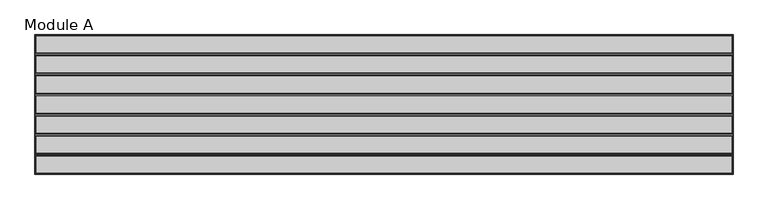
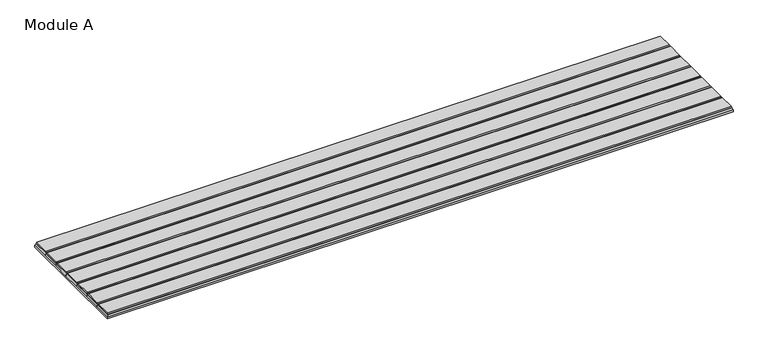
"""IFC4 building model written with IfcOpenShell, lengths in millimetres: proxy geometry, FilzFelt_Gap : Module A."""

from ifc_helpers import new_model, si_unit, origin, place, context, project, spatial, faceted_brep, source, transform, mapped, element, save


def module_a_b5c75f02(model_context):
    return source(origin(), model_context, "Body", "Brep", [
        faceted_brep([(-760.095, 110.7621429, 9.525), (760.095, 110.7621429, 9.525), (760.095, 150.495, 9.525), (-760.095, 150.495, 9.525), (760.095, -110.7621429, 9.525), (-760.095, -110.7621429, 9.525), (-760.095, -150.495, 9.525), (760.095, -150.495, 9.525), (-760.095, 67.2192857, 9.525), (760.095, 67.2192857, 9.525), (760.095, 106.9521429, 9.525), (-760.095, 106.9521429, 9.525), (-760.095, 23.6764286, 9.525), (760.095, 23.6764286, 9.525), (760.095, 63.4092857, 9.525), (-760.095, 63.4092857, 9.525), (-760.095, -19.8664286, 9.525), (760.095, -19.8664286, 9.525), (760.095, 19.8664286, 9.525), (-760.095, 19.8664286, 9.525), (-760.095, -63.4092857, 9.525), (760.095, -63.4092857, 9.525), (760.095, -23.6764286, 9.525), (-760.095, -23.6764286, 9.525), (-760.095, -106.9521429, 9.525), (760.095, -106.9521429, 9.525), (760.095, -67.2192857, 9.525), (-760.095, -67.2192857, 9.525), (762.0, 152.4, 0.0), (762.0, -152.4, 0.0), (-762.0, -152.4, 0.0), (-762.0, 152.4, 0.0), (-762.0, 152.4, 4.7625), (762.0, 152.4, 4.7625), (-762.0, -152.4, 4.7625), (-762.0, -108.8571429, 4.7625), (-762.0, -65.3142857, 4.7625), (-762.0, -21.7714286, 4.7625), (-762.0, 21.7714286, 4.7625), (-762.0, 65.3142857, 4.7625), (-762.0, 108.8571429, 4.7625), (762.0, -152.4, 4.7625), (762.0, 108.8571429, 4.7625), (762.0, 65.3142857, 4.7625), (762.0, 21.7714286, 4.7625), (762.0, -21.7714286, 4.7625), (762.0, -65.3142857, 4.7625), (762.0, -108.8571429, 4.7625)], [[[0, 1, 2, 3]], [[4, 5, 6, 7]], [[8, 9, 10, 11]], [[12, 13, 14, 15]], [[16, 17, 18, 19]], [[20, 21, 22, 23]], [[24, 25, 26, 27]], [[28, 29, 30, 31]], [[28, 31, 32, 33]], [[31, 30, 34, 35, 36, 37, 38, 39, 40, 32]], [[30, 29, 41, 34]], [[29, 28, 33, 42, 43, 44, 45, 46, 47, 41]], [[10, 9, 43, 42]], [[14, 13, 44, 43]], [[18, 17, 45, 44]], [[22, 21, 46, 45]], [[26, 25, 47, 46]], [[7, 41, 47, 4]], [[33, 2, 1, 42]], [[41, 7, 6, 34]], [[8, 11, 40, 39]], [[12, 15, 39, 38]], [[16, 19, 38, 37]], [[20, 23, 37, 36]], [[24, 27, 36, 35]], [[34, 6, 5, 35]], [[3, 32, 40, 0]], [[32, 3, 2, 33]], [[42, 40, 11, 10]], [[40, 42, 1, 0]], [[43, 39, 15, 14]], [[39, 43, 9, 8]], [[44, 38, 19, 18]], [[38, 44, 13, 12]], [[45, 37, 23, 22]], [[37, 45, 17, 16]], [[46, 36, 27, 26]], [[36, 46, 21, 20]], [[47, 35, 5, 4]], [[35, 47, 25, 24]]]),
        faceted_brep([(-760.095, -110.7621429, 9.525), (760.095, -110.7621429, 9.525), (760.095, -150.495, 9.525), (-760.095, -150.495, 9.525), (758.825, -112.0321429, 12.7), (-758.825, -112.0321429, 12.7), (-758.825, -149.225, 12.7), (758.825, -149.225, 12.7)], [[[0, 1, 2, 3]], [[4, 5, 6, 7]], [[7, 2, 1, 4]], [[2, 7, 6, 3]], [[3, 6, 5, 0]], [[1, 0, 5, 4]]]),
        faceted_brep([(760.095, 110.7621429, 9.525), (-760.095, 110.7621429, 9.525), (-760.095, 150.495, 9.525), (760.095, 150.495, 9.525), (-758.825, 112.0321429, 12.7), (758.825, 112.0321429, 12.7), (758.825, 149.225, 12.7), (-758.825, 149.225, 12.7)], [[[0, 1, 2, 3]], [[4, 5, 6, 7]], [[3, 6, 5, 0]], [[7, 2, 1, 4]], [[2, 7, 6, 3]], [[1, 0, 5, 4]]]),
        faceted_brep([(760.095, 67.2192857, 9.525), (-760.095, 67.2192857, 9.525), (-760.095, 106.9521429, 9.525), (760.095, 106.9521429, 9.525), (-758.825, 68.4892857, 12.7), (758.825, 68.4892857, 12.7), (758.825, 105.6821429, 12.7), (-758.825, 105.6821429, 12.7)], [[[0, 1, 2, 3]], [[4, 5, 6, 7]], [[0, 3, 6, 5]], [[2, 1, 4, 7]], [[3, 2, 7, 6]], [[1, 0, 5, 4]]]),
        faceted_brep([(760.095, 23.6764286, 9.525), (-760.095, 23.6764286, 9.525), (-760.095, 63.4092857, 9.525), (760.095, 63.4092857, 9.525), (-758.825, 24.9464286, 12.7), (758.825, 24.9464286, 12.7), (758.825, 62.1392857, 12.7), (-758.825, 62.1392857, 12.7)], [[[0, 1, 2, 3]], [[4, 5, 6, 7]], [[0, 3, 6, 5]], [[2, 1, 4, 7]], [[3, 2, 7, 6]], [[1, 0, 5, 4]]]),
        faceted_brep([(760.095, -19.8664286, 9.525), (-760.095, -19.8664286, 9.525), (-760.095, 19.8664286, 9.525), (760.095, 19.8664286, 9.525), (-758.825, -18.5964286, 12.7), (758.825, -18.5964286, 12.7), (758.825, 18.5964286, 12.7), (-758.825, 18.5964286, 12.7)], [[[0, 1, 2, 3]], [[4, 5, 6, 7]], [[0, 3, 6, 5]], [[2, 1, 4, 7]], [[3, 2, 7, 6]], [[1, 0, 5, 4]]]),
        faceted_brep([(760.095, -63.4092857, 9.525), (-760.095, -63.4092857, 9.525), (-760.095, -23.6764286, 9.525), (760.095, -23.6764286, 9.525), (-758.825, -62.1392857, 12.7), (758.825, -62.1392857, 12.7), (758.825, -24.9464286, 12.7), (-758.825, -24.9464286, 12.7)], [[[0, 1, 2, 3]], [[4, 5, 6, 7]], [[0, 3, 6, 5]], [[2, 1, 4, 7]], [[3, 2, 7, 6]], [[1, 0, 5, 4]]]),
        faceted_brep([(760.095, -106.9521429, 9.525), (-760.095, -106.9521429, 9.525), (-760.095, -67.2192857, 9.525), (760.095, -67.2192857, 9.525), (-758.825, -105.6821429, 12.7), (758.825, -105.6821429, 12.7), (758.825, -68.4892857, 12.7), (-758.825, -68.4892857, 12.7)], [[[0, 1, 2, 3]], [[4, 5, 6, 7]], [[0, 3, 6, 5]], [[2, 1, 4, 7]], [[3, 2, 7, 6]], [[1, 0, 5, 4]]]),
    ])


if __name__ == "__main__":
    model = new_model("IFC4")
    model_context = context("Model", 3, world=origin())
    ifc_project = project(units=[si_unit("LENGTHUNIT", "METRE", prefix="MILLI")], contexts=[model_context])
    site = spatial("IfcSite", under=ifc_project)
    building = spatial("IfcBuilding", under=site)
    placement = place(None, origin())
    module_a_shape = module_a_b5c75f02(model_context)
    element("IfcBuildingElementProxy", 1, Name="FilzFelt_Gap : Module A", ObjectType="FilzFelt_Gap : Module A", at=placement, inside=building, context=model_context, shape_type="MappedRepresentation", body=[
        mapped(module_a_shape, transform((0.0, 0.0, 0.0), x_axis=(1.0, 0.0, 0.0), y_axis=(0.0, 1.0, 0.0), z_axis=(0.0, 0.0, 1.0))),
    ])
    save(model, "model.ifc")
